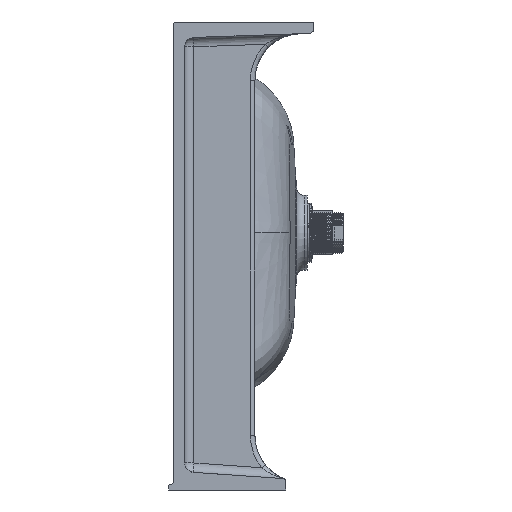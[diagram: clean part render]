
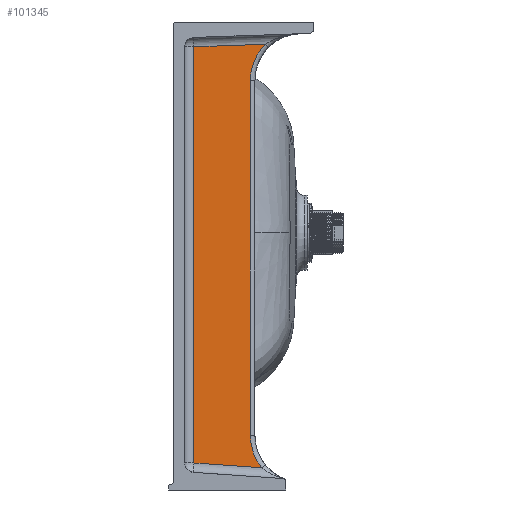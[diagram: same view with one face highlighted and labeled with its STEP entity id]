
A CAD part, left-side view. The second image highlights one B-rep face of the part: STEP entity #101345.
In plain terms, the highlighted planar face has unit normal (-1, -0.018, 0).
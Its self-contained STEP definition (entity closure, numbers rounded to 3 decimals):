
#911 = CARTESIAN_POINT ( 'NONE',  ( -1056.086, -82.087, 162.516 ) ) ;
#1795 = DIRECTION ( 'NONE',  ( 0.017, -0.997, -0.07 ) ) ;
#2268 = CARTESIAN_POINT ( 'NONE',  ( -1056.086, -82.087, -229.377 ) ) ;
#3924 = VECTOR ( 'NONE', #26023, 1000. ) ;
#6784 = VERTEX_POINT ( 'NONE', #18768 ) ;
#11884 = CARTESIAN_POINT ( 'NONE',  ( -1055.988, -87.662, 190.752 ) ) ;
#16480 = LINE ( 'NONE', #108201, #84358 ) ;
#17045 = EDGE_CURVE ( 'NONE', #36672, #55647, #87519, .T. ) ;
#18768 = CARTESIAN_POINT ( 'NONE',  ( -1057.138, -21.825, -246.123 ) ) ;
#21373 = CARTESIAN_POINT ( 'NONE',  ( -1055.808, -97.974, 201.183 ) ) ;
#21558 = ORIENTED_EDGE ( 'NONE', *, *, #17045, .T. ) ;
#23091 = ORIENTED_EDGE ( 'NONE', *, *, #71394, .T. ) ;
#25605 =( BOUNDED_CURVE ( )  B_SPLINE_CURVE ( 3, ( #29190, #30882, #11884, #21373 ),
 .UNSPECIFIED., .F., .T. ) 
 B_SPLINE_CURVE_WITH_KNOTS ( ( 4, 4 ),
 ( 0., 0.78 ),
 .UNSPECIFIED. ) 
 CURVE ( )  GEOMETRIC_REPRESENTATION_ITEM ( )  RATIONAL_B_SPLINE_CURVE ( ( 1., 0.95, 0.95, 1. ) ) 
 REPRESENTATION_ITEM ( '' )  );
#26023 = DIRECTION ( 'NONE',  ( 0., 0., -1. ) ) ;
#29190 = CARTESIAN_POINT ( 'NONE',  ( -1056.086, -82.087, 162.516 ) ) ;
#30882 = CARTESIAN_POINT ( 'NONE',  ( -1056.086, -82.087, 177.184 ) ) ;
#31438 = EDGE_CURVE ( 'NONE', #6784, #42373, #86779, .T. ) ;
#31541 = CARTESIAN_POINT ( 'NONE',  ( -1057.138, -21.825, 198.524 ) ) ;
#33679 = ORIENTED_EDGE ( 'NONE', *, *, #70858, .T. ) ;
#36588 = ORIENTED_EDGE ( 'NONE', *, *, #65326, .T. ) ;
#36672 = VERTEX_POINT ( 'NONE', #105658 ) ;
#38040 = CARTESIAN_POINT ( 'NONE',  ( -1055.874, -94.229, -251.186 ) ) ;
#42373 = VERTEX_POINT ( 'NONE', #38040 ) ;
#44760 = DIRECTION ( 'NONE',  ( -0.017, 1., 0. ) ) ;
#54635 = VECTOR ( 'NONE', #105950, 1000. ) ;
#55647 = VERTEX_POINT ( 'NONE', #31541 ) ;
#58324 = AXIS2_PLACEMENT_3D ( 'NONE', #102955, #87247, #44760 ) ;
#59061 = CARTESIAN_POINT ( 'NONE',  ( -1057.138, -21.825, -246.123 ) ) ;
#61001 = FACE_OUTER_BOUND ( 'NONE', #94357, .T. ) ;
#61552 = PLANE ( 'NONE',  #58324 ) ;
#61884 = VERTEX_POINT ( 'NONE', #911 ) ;
#62222 = VECTOR ( 'NONE', #1795, 1000. ) ;
#63631 = CARTESIAN_POINT ( 'NONE',  ( -1055.874, -94.229, -251.186 ) ) ;
#65326 = EDGE_CURVE ( 'NONE', #55647, #6784, #75845, .T. ) ;
#70760 = CARTESIAN_POINT ( 'NONE',  ( -1057.254, -15.152, 198.291 ) ) ;
#70858 = EDGE_CURVE ( 'NONE', #61884, #36672, #25605, .T. ) ;
#71394 = EDGE_CURVE ( 'NONE', #42373, #93409, #79160, .T. ) ;
#72571 = CARTESIAN_POINT ( 'NONE',  ( -1056.086, -82.087, -216.716 ) ) ;
#74115 = DIRECTION ( 'NONE',  ( 0., 0., 1. ) ) ;
#75845 = LINE ( 'NONE', #59061, #3924 ) ;
#78390 = CARTESIAN_POINT ( 'NONE',  ( -1057.958, 25.148, -242.838 ) ) ;
#79160 =( BOUNDED_CURVE ( )  B_SPLINE_CURVE ( 3, ( #63631, #106660, #2268, #72571 ),
 .UNSPECIFIED., .F., .T. ) 
 B_SPLINE_CURVE_WITH_KNOTS ( ( 4, 4 ),
 ( 5.606, 6.283 ),
 .UNSPECIFIED. ) 
 CURVE ( )  GEOMETRIC_REPRESENTATION_ITEM ( )  RATIONAL_B_SPLINE_CURVE ( ( 1., 0.962, 0.962, 1. ) ) 
 REPRESENTATION_ITEM ( '' )  );
#84358 = VECTOR ( 'NONE', #74115, 1000. ) ;
#86779 = LINE ( 'NONE', #78390, #62222 ) ;
#87247 = DIRECTION ( 'NONE',  ( 1., 0.017, 0. ) ) ;
#87519 = LINE ( 'NONE', #70760, #54635 ) ;
#89858 = EDGE_CURVE ( 'NONE', #93409, #61884, #16480, .T. ) ;
#93393 = ORIENTED_EDGE ( 'NONE', *, *, #89858, .T. ) ;
#93409 = VERTEX_POINT ( 'NONE', #101078 ) ;
#94357 = EDGE_LOOP ( 'NONE', ( #93393, #33679, #21558, #36588, #97787, #23091 ) ) ;
#97787 = ORIENTED_EDGE ( 'NONE', *, *, #31438, .T. ) ;
#101078 = CARTESIAN_POINT ( 'NONE',  ( -1056.086, -82.087, -216.716 ) ) ;
#101345 = ADVANCED_FACE ( 'NONE', ( #61001 ), #61552, .F. ) ;
#102955 = CARTESIAN_POINT ( 'NONE',  ( -1057.309, -12., 288.571 ) ) ;
#105658 = CARTESIAN_POINT ( 'NONE',  ( -1055.808, -97.974, 201.183 ) ) ;
#105950 = DIRECTION ( 'NONE',  ( -0.017, 0.999, -0.035 ) ) ;
#106660 = CARTESIAN_POINT ( 'NONE',  ( -1056.012, -86.294, -241.319 ) ) ;
#108201 = CARTESIAN_POINT ( 'NONE',  ( -1056.086, -82.087, 288.571 ) ) ;
